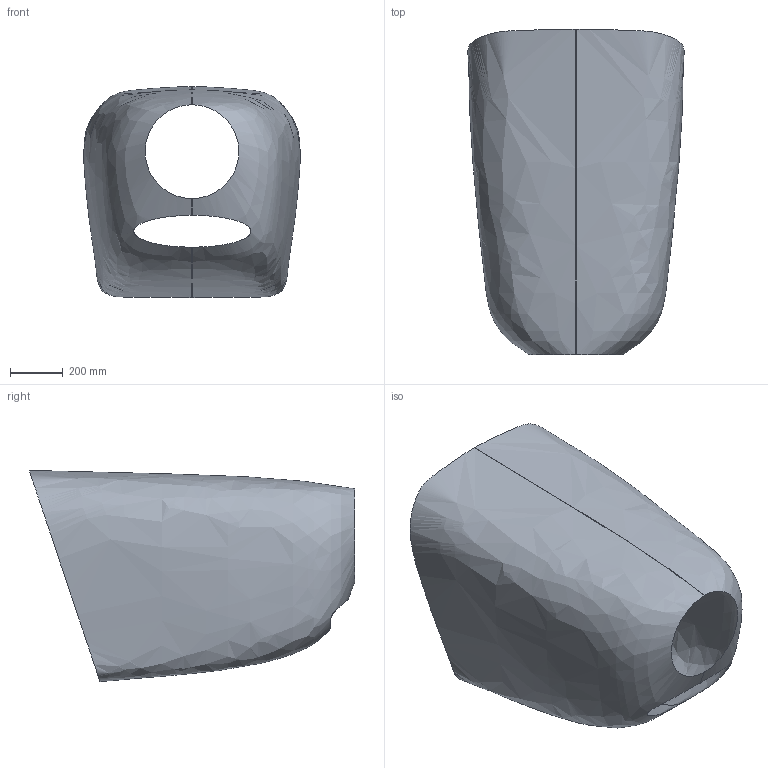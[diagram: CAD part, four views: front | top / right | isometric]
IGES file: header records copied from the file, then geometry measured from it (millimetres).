
Global section: file name: H:\640-cowl.igs; native system: Rhinoceros ( May 19 2006 ); preprocessor: Trout Lake IGES 012 May 19 2006; date: 100524.092310; units: inch
Bounding box: 819.57 x 1234.26 x 800.49 mm (x, y, z)
Surface area: 2844400.4 mm2 (no closed solid volume)
Topology: 0 solids, 0 shells, 2 faces, 283 edges, 283 vertices
Faces by surface type: bspline 2
